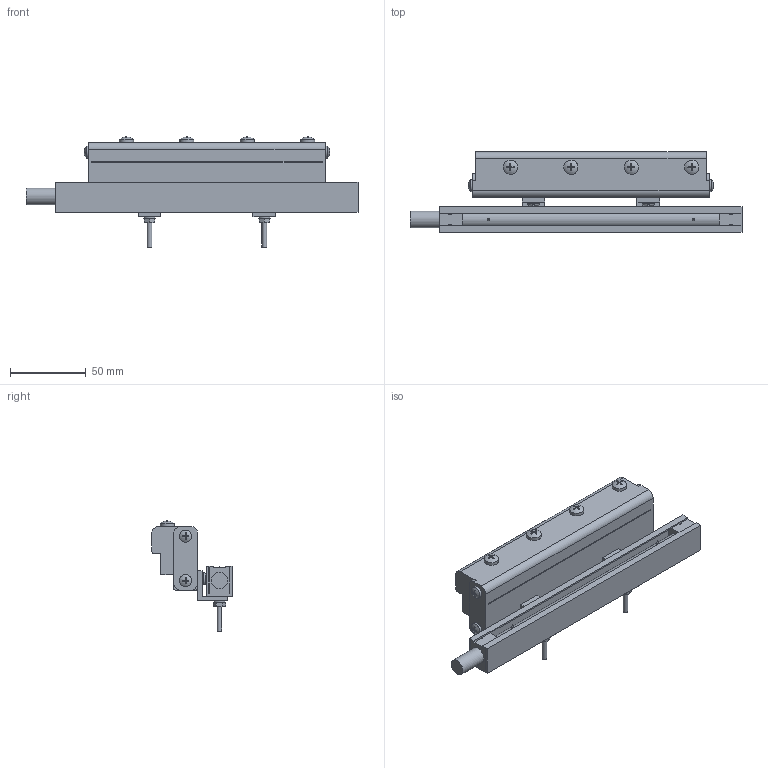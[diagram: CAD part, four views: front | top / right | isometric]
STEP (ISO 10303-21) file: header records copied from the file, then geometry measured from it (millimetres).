
FILE_DESCRIPTION(('Bauteilbeschreibung','HiCAD-Model','HiCAD-STEP-TRANSLATION','Bauteilbeschreibung'),'2;1');
FILE_NAME('MEB+TRANSVECTOR 06.STP','2014-02-07T09:29:10+00:00',('Konstrukteur'),('Konstrukteur Firma GmbH'),' HiCAD 2011, Step 1600.0 ','HiCAD 2011','confidential');
FILE_SCHEMA(('AUTOMOTIVE_DESIGN { 1 2 10303 214 0 1 1 1 }'));
Length unit declared in the file: millimetre
Products named in the file (3): MEB_TRANSVECTOR 06; TRANSVECTOR; CASING
Assembly tree (2 placements, depth 2):
  MEB_TRANSVECTOR 06
    TRANSVECTOR
    CASING
Bounding box: 219.75 x 53.1 x 72.88 mm (x, y, z)
Volume: 197282.7 mm3; surface area: 66773 mm2
Topology: 2 solids, 7 shells, 348 faces, 946 edges, 626 vertices
Faces by surface type: plane 189, cone 87, cylinder 62, sphere 8, torus 2
Full cylindrical faces by diameter (mm): 1.45 x2, 2.4 x4, 3.141 x8, 4 x8, 4.5 x4, 5.5 x4, 7.6 x1, 8 x6, 9.5 x4, 10.6 x1, 11 x1, 11.445 x1, 13.157 x1
Entity records: 18293 total; most frequent: CARTESIAN_POINT 4277, ORIENTED_EDGE 1612, DIRECTION 1582, COLOUR_RGB 1073, PRESENTATION_STYLE_ASSIGNMENT 1073, OVER_RIDING_STYLED_ITEM 1071, EDGE_CURVE 806, CURVE_STYLE 787
